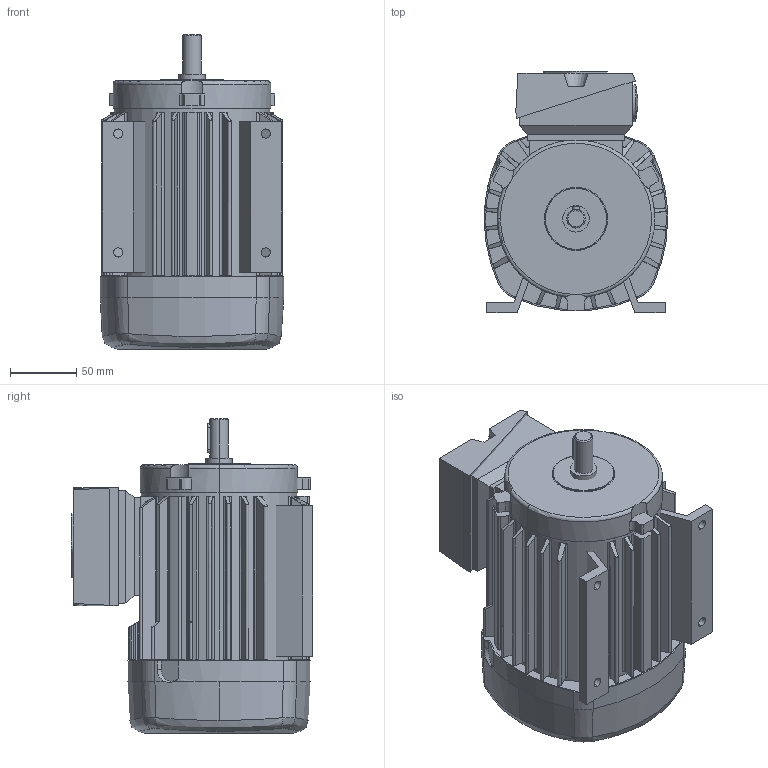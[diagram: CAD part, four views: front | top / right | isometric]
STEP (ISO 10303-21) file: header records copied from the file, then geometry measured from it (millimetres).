
FILE_DESCRIPTION (( 'STEP AP214' ), '1' );
FILE_NAME ('IE3-W41R71_B3.STEP', '2024-10-22T05:32:13', ( '' ), ( '' ), 'SwSTEP 2.0', 'SolidWorks 2023', '' );
FILE_SCHEMA (( 'AUTOMOTIVE_DESIGN' ));
Length unit declared in the file: millimetre
Products named in the file (12): KD05_Kat; Fuss_Prog_rechts_Kat_F_Prog071_re; RG 07_Kat; LD_Kat_LD07; WE_RWE_Kat_14x30 (W21R71); KA05_Kat; FG07; LHB_Kat_LHB07; Verschlussschraube_M25; KA05_komplett_Kat_VSS_2xM25; Fuss_Prog_links_Kat_F_Prog071_li; IE3-W41R71_B3
Assembly tree (12 placements, depth 3):
  IE3-W41R71_B3
    LHB_Kat_LHB07
    LD_Kat_LD07
    FG07
      RG 07_Kat
      Fuss_Prog_links_Kat_F_Prog071_li
      Fuss_Prog_rechts_Kat_F_Prog071_re
    WE_RWE_Kat_14x30 (W21R71)
    KA05_komplett_Kat_VSS_2xM25
      KA05_Kat
      KD05_Kat
      Verschlussschraube_M25  x2
Bounding box: 139 x 183 x 238.5 mm (x, y, z)
Volume: 3162587.3 mm3; surface area: 316257.9 mm2
Topology: 10 solids, 10 shells, 481 faces, 1252 edges, 825 vertices
Faces by surface type: plane 216, cylinder 204, cone 39, torus 10, bspline 8, sphere 4
Entity records: 16274 total; most frequent: CARTESIAN_POINT 4468, ORIENTED_EDGE 2426, DIRECTION 2376, EDGE_CURVE 1213, AXIS2_PLACEMENT_3D 865, VERTEX_POINT 799, LINE 646, VECTOR 646
